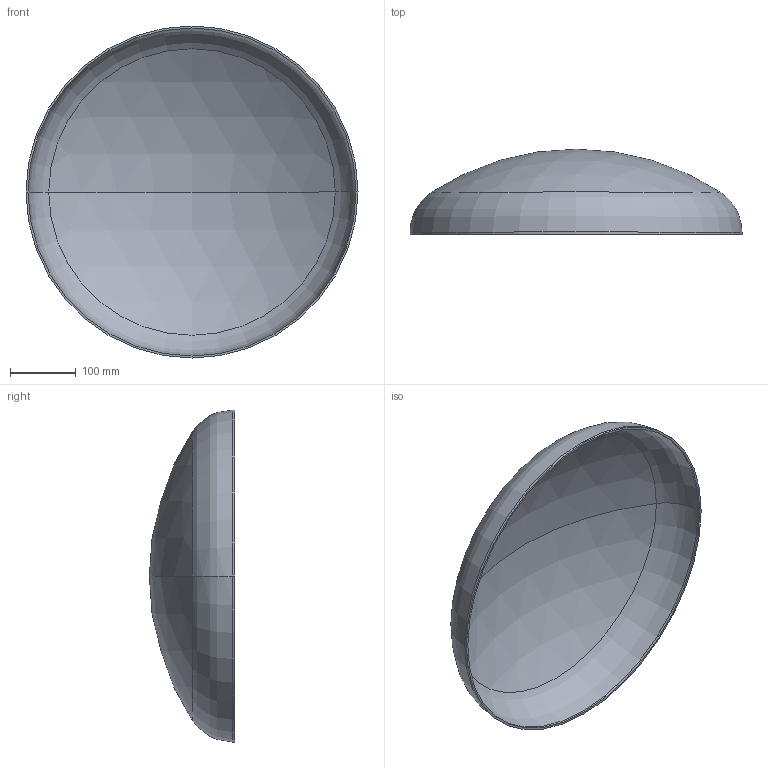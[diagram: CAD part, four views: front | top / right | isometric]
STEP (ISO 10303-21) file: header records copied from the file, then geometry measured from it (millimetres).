
FILE_DESCRIPTION (( 'STEP AP203' ), '1' );
FILE_NAME ('3D_R365_506x3_173371488.STEP', '2024-07-16T06:52:29', ( '' ), ( '' ), 'SwSTEP 2.0', 'SolidWorks 2024', '' );
FILE_SCHEMA (( 'CONFIG_CONTROL_DESIGN' ));
Length unit declared in the file: millimetre
Products named in the file (1): 3D_R365_506x3_173371488
Bounding box: 506 x 130 x 506 mm (x, y, z)
Volume: 829945.5 mm3; surface area: 558056.3 mm2
Topology: 1 solids, 1 shells, 13 faces, 24 edges, 14 vertices
Faces by surface type: sphere 4, torus 4, cylinder 4, plane 1
Entity records: 407 total; most frequent: DIRECTION 72, CARTESIAN_POINT 52, ORIENTED_EDGE 48, AXIS2_PLACEMENT_3D 34, EDGE_CURVE 24, CIRCLE 20, EDGE_LOOP 14, VERTEX_POINT 14
